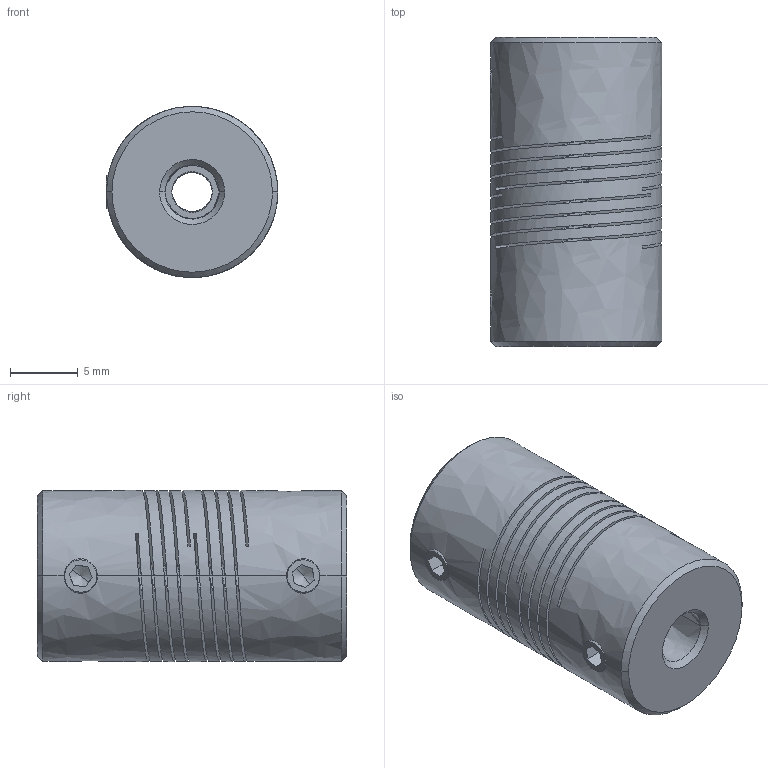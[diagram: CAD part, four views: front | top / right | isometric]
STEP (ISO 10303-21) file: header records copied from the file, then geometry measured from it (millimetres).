
FILE_DESCRIPTION((''),'2;1');
FILE_NAME('730_13','2026-02-24T',('SYSTEM'),(''),'PRO/ENGINEER BY PARAMETRIC TECHNOLOGY CORPORATION, 2016360','PRO/ENGINEER BY PARAMETRIC TECHNOLOGY CORPORATION, 2016360','');
FILE_SCHEMA(('AUTOMOTIVE_DESIGN { 1 0 10303 214 1 1 1 1 }'));
Length unit declared in the file: inch
Products named in the file (1): 730_13
Bounding box: 12.68 x 22.85 x 12.65 mm (x, y, z)
Volume: 2355.2 mm3; surface area: 3162.5 mm2
Topology: 1 solids, 1 shells, 100 faces, 314 edges, 204 vertices
Faces by surface type: bspline 100
Entity records: 7650 total; most frequent: CARTESIAN_POINT 5272, ORIENTED_EDGE 620, EDGE_CURVE 310, B_SPLINE_CURVE_WITH_KNOTS 210, VERTEX_POINT 204, COLOUR_RGB 111, EDGE_LOOP 106, DIRECTION 100
